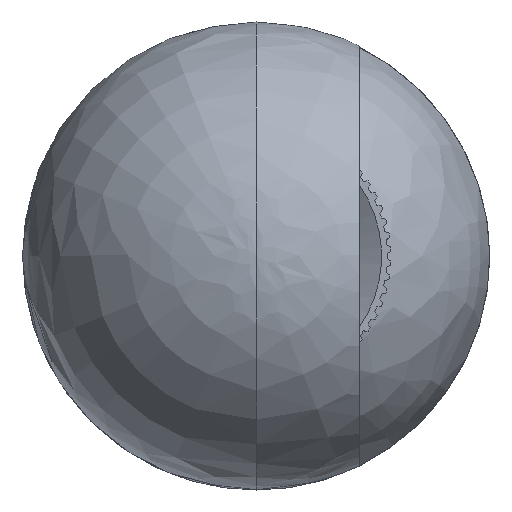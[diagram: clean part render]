
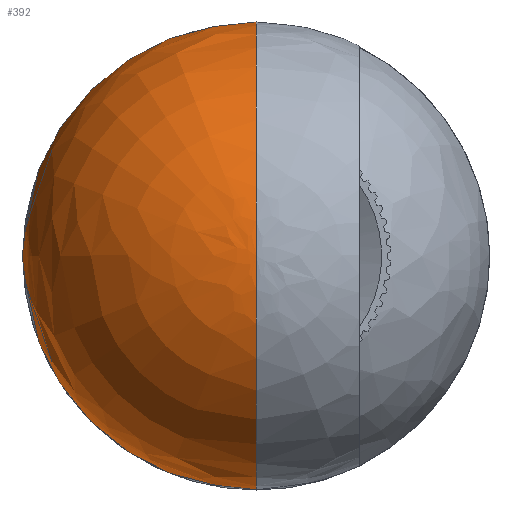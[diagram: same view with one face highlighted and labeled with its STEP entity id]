
A CAD part, top view. The second image highlights one B-rep face of the part: STEP entity #392.
In plain terms, the highlighted free-form (B-spline) face has degree [2, 2] with [5, 5] control points.
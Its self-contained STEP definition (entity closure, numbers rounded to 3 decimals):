
#392=ADVANCED_FACE('',(#800),#6674,.T.);
#800=FACE_OUTER_BOUND('',#1216,.T.);
#1216=EDGE_LOOP('',(#1792,#1793,#1794));
#1792=ORIENTED_EDGE('',*,*,#3874,.T.);
#1793=ORIENTED_EDGE('',*,*,#3875,.T.);
#1794=ORIENTED_EDGE('',*,*,#3867,.F.);
#3867=EDGE_CURVE('',#6008,#6009,#5403,.T.);
#3874=EDGE_CURVE('',#6008,#6012,#5409,.T.);
#3875=EDGE_CURVE('',#6012,#6009,#5410,.T.);
#5403=(
BOUNDED_CURVE()
B_SPLINE_CURVE(2,(#9290,#9291,#9292,#9293,#9294),.UNSPECIFIED.,.F.,.F.)
B_SPLINE_CURVE_WITH_KNOTS((3,2,3),(0.,82.74,165.48),
 .UNSPECIFIED.)
CURVE()
GEOMETRIC_REPRESENTATION_ITEM()
RATIONAL_B_SPLINE_CURVE((1.,0.764,1.,0.764,1.))
REPRESENTATION_ITEM('')
);
#5409=(
BOUNDED_CURVE()
B_SPLINE_CURVE(2,(#9330,#9331,#9332,#9333,#9334),.UNSPECIFIED.,.F.,.F.)
B_SPLINE_CURVE_WITH_KNOTS((3,2,3),(0.,82.74,165.48),
 .UNSPECIFIED.)
CURVE()
GEOMETRIC_REPRESENTATION_ITEM()
RATIONAL_B_SPLINE_CURVE((1.,0.764,1.,0.764,1.))
REPRESENTATION_ITEM('')
);
#5410=(
BOUNDED_CURVE()
B_SPLINE_CURVE(2,(#9335,#9336,#9337,#9338,#9339),.UNSPECIFIED.,.F.,.F.)
B_SPLINE_CURVE_WITH_KNOTS((3,2,3),(61.261,91.892,122.522),
 .UNSPECIFIED.)
CURVE()
GEOMETRIC_REPRESENTATION_ITEM()
RATIONAL_B_SPLINE_CURVE((1.,0.707,1.,0.707,1.))
REPRESENTATION_ITEM('')
);
#6008=VERTEX_POINT('',#9275);
#6009=VERTEX_POINT('',#9276);
#6012=VERTEX_POINT('',#9279);
#6674=(
BOUNDED_SURFACE()
B_SPLINE_SURFACE(2,2,((#9194,#9195,#9196,#9197,#9198),(#9199,#9200,#9201,
#9202,#9203),(#9204,#9205,#9206,#9207,#9208),(#9209,#9210,#9211,#9212,#9213),
(#9214,#9215,#9216,#9217,#9218)),.UNSPECIFIED.,.F.,.F.,.F.)
B_SPLINE_SURFACE_WITH_KNOTS((3,2,3),(3,2,3),(0.,92.677,185.354),
(0.,92.677,185.354),.UNSPECIFIED.)
GEOMETRIC_REPRESENTATION_ITEM()
RATIONAL_B_SPLINE_SURFACE(((1.,0.707,1.,0.707,1.),
(0.707,0.5,0.707,0.5,0.707),(1.,0.707,
1.,0.707,1.),(0.707,0.5,0.707,0.5,0.707),
(1.,0.707,1.,0.707,1.)))
REPRESENTATION_ITEM('')
SURFACE()
);
#9194=CARTESIAN_POINT('',(0.,0.,180.1));
#9195=CARTESIAN_POINT('',(0.,-59.,180.1));
#9196=CARTESIAN_POINT('',(0.,-59.,121.1));
#9197=CARTESIAN_POINT('',(0.,-59.,62.1));
#9198=CARTESIAN_POINT('',(0.,0.,62.1));
#9199=CARTESIAN_POINT('',(0.,0.,180.1));
#9200=CARTESIAN_POINT('',(-59.,-59.,180.1));
#9201=CARTESIAN_POINT('',(-59.,-59.,121.1));
#9202=CARTESIAN_POINT('',(-59.,-59.,62.1));
#9203=CARTESIAN_POINT('',(0.,0.,62.1));
#9204=CARTESIAN_POINT('',(0.,0.,180.1));
#9205=CARTESIAN_POINT('',(-59.,0.,180.1));
#9206=CARTESIAN_POINT('',(-59.,0.,121.1));
#9207=CARTESIAN_POINT('',(-59.,0.,62.1));
#9208=CARTESIAN_POINT('',(0.,0.,62.1));
#9209=CARTESIAN_POINT('',(0.,0.,180.1));
#9210=CARTESIAN_POINT('',(-59.,59.,180.1));
#9211=CARTESIAN_POINT('',(-59.,59.,121.1));
#9212=CARTESIAN_POINT('',(-59.,59.,62.1));
#9213=CARTESIAN_POINT('',(0.,0.,62.1));
#9214=CARTESIAN_POINT('',(0.,0.,180.1));
#9215=CARTESIAN_POINT('',(0.,59.,180.1));
#9216=CARTESIAN_POINT('',(0.,59.,121.1));
#9217=CARTESIAN_POINT('',(0.,59.,62.1));
#9218=CARTESIAN_POINT('',(0.,0.,62.1));
#9275=CARTESIAN_POINT('',(0.,0.,180.1));
#9276=CARTESIAN_POINT('',(0.,-19.5,65.416));
#9279=CARTESIAN_POINT('',(0.,19.5,65.416));
#9290=CARTESIAN_POINT('',(0.,0.,180.1));
#9291=CARTESIAN_POINT('',(0.,-49.815,180.1));
#9292=CARTESIAN_POINT('',(0.,-58.165,130.99));
#9293=CARTESIAN_POINT('',(0.,-66.515,81.88));
#9294=CARTESIAN_POINT('',(0.,-19.5,65.416));
#9330=CARTESIAN_POINT('',(0.,0.,180.1));
#9331=CARTESIAN_POINT('',(0.,49.815,180.1));
#9332=CARTESIAN_POINT('',(0.,58.165,130.99));
#9333=CARTESIAN_POINT('',(0.,66.515,81.88));
#9334=CARTESIAN_POINT('',(0.,19.5,65.416));
#9335=CARTESIAN_POINT('',(0.,19.5,65.416));
#9336=CARTESIAN_POINT('',(-19.5,19.5,65.416));
#9337=CARTESIAN_POINT('',(-19.5,0.,65.416));
#9338=CARTESIAN_POINT('',(-19.5,-19.5,65.416));
#9339=CARTESIAN_POINT('',(0.,-19.5,65.416));
